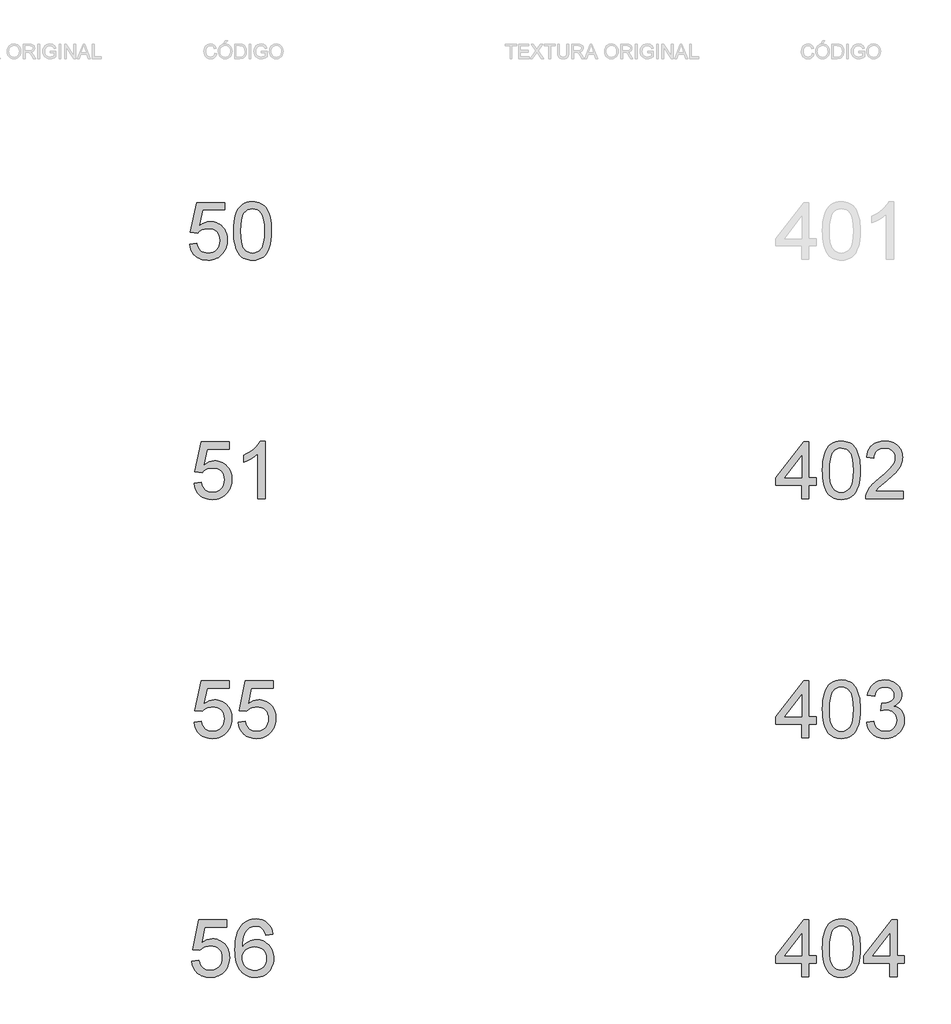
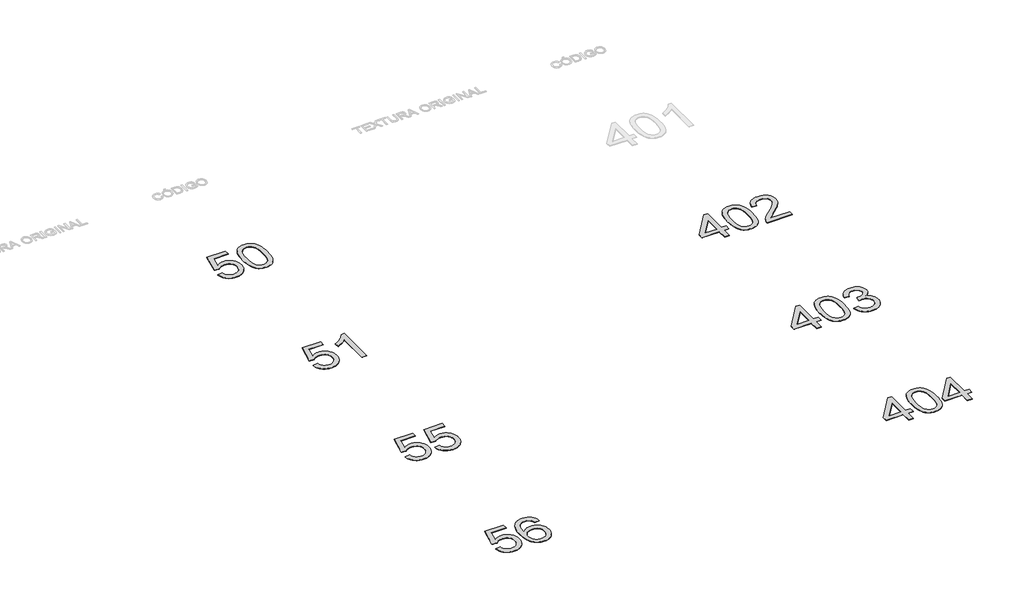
# One storey, part 5 of 19: 7 proxies.
"""IFC4 building model written with IfcOpenShell, lengths in millimetres."""

from ifc_helpers import new_model, si_unit, origin, origin_with_axes, place, context, project, spatial, polyline, outline, extrude, element, save

model = new_model("IFC4")

# Units and contexts
model_context = context("Model", 3, world=origin())
ifc_project = project(units=[si_unit("LENGTHUNIT", "METRE", prefix="MILLI")], contexts=[model_context])

# Site, building, storey
site = spatial("IfcSite", under=ifc_project)
building = spatial("IfcBuilding", under=site)
storey = spatial("IfcBuildingStorey", under=building, Name="Marelli - Linha ACTIVE - Planta Baixa", Elevation=0.0)

# Proxies
placement = place(None, origin())
element("IfcBuildingElementProxy", 1, Name="1200mm Arial", ObjectType="1200mm Arial", at=placement, inside=storey, context=model_context, shape_type="SweptSolid", body=[
    extrude(outline(polyline([(-25228.2202746, -108660.3618315), (-25077.5358094, -108641.5262733), (-25066.2786203, -108689.967135), (-25049.8710833, -108731.9884559), (-25028.3131984, -108767.590236), (-25001.6049656, -108796.7724753), (-24969.8015671, -108819.4983855), (-24932.9581853, -108835.7311786), (-24891.0748201, -108845.4708544), (-24844.1514716, -108848.717413), (-24786.7618804, -108844.2016615), (-24736.1413178, -108830.654407), (-24692.289784, -108808.0756496), (-24655.2072789, -108776.4653891), (-24625.721537, -108737.3871242), (-24604.6602928, -108692.4043532), (-24592.0235462, -108641.5170763), (-24587.8112974, -108584.7252933), (-24591.7568318, -108531.0513102), (-24603.593435, -108483.3370154), (-24623.321107, -108441.5824089), (-24650.9398478, -108405.7874908), (-24686.5416278, -108377.0743011), (-24730.2184177, -108356.5648799), (-24781.9702174, -108344.2592271), (-24841.7970269, -108340.1573429), (-24880.0843455, -108341.7944177), (-24914.8951793, -108346.7056424), (-24946.2295282, -108354.8910168), (-24974.0873923, -108366.3505409), (-25021.3602287, -108396.4432881), (-25058.7002512, -108434.3351336), (-25209.3847164, -108415.4995755), (-25077.5358094, -107793.9261564), (-24493.6335066, -107793.9261564), (-24493.6335066, -107944.6106217), (-24955.6932926, -107944.6106217), (-25020.1462181, -108276.5873341), (-24966.9688757, -108238.4747594), (-24912.5039463, -108211.2514918), (-24856.75143, -108194.9175312), (-24799.7113266, -108189.4728776), (-24762.2724358, -108191.1605363), (-24726.3280656, -108196.2235123), (-24691.878216, -108204.6618055), (-24658.9228871, -108216.4754161), (-24627.4620787, -108231.664344), (-24597.4957909, -108250.2285891), (-24569.0240237, -108272.1681516), (-24542.0467772, -108297.4830314), (-24517.4561651, -108325.4512601), (-24496.1443012, -108355.3508693), (-24478.1111857, -108387.1818589), (-24463.3568184, -108420.944229), (-24451.8811994, -108456.6379796), (-24443.6843287, -108494.2631106), (-24438.7662063, -108533.8196222), (-24437.1268322, -108575.3075142), (-24443.0313382, -108653.3720736), (-24450.4119707, -108690.3626082), (-24460.7448562, -108725.9919794), (-24474.0299948, -108760.2601873), (-24490.2673864, -108793.1672317), (-24509.4570309, -108824.7131128), (-24531.5989285, -108854.8978305), (-24561.5997052, -108888.7659667), (-24594.2124441, -108918.1183514), (-24629.4371451, -108942.9549846), (-24667.2738083, -108963.2758663), (-24707.7224337, -108979.0809965), (-24750.7830212, -108990.3703752), (-24796.4555709, -108997.1440025), (-24844.7400828, -108999.4018782), (-24922.5011395, -108993.5985397), (-24958.5604729, -108986.3443667), (-24992.7390095, -108976.1885243), (-25025.0367494, -108963.1310128), (-25055.4536926, -108947.171832), (-25083.9898391, -108928.3109819), (-25110.6451889, -108906.5484626), (-25134.9828822, -108882.3901119), (-25156.566059, -108856.3417673), (-25175.3947193, -108828.4034291), (-25191.4688633, -108798.5750971), (-25204.7884908, -108766.8567713), (-25215.3536018, -108733.2484518), (-25228.2202746, -108660.3618315)])), origin_with_axes(), (0.0, 0.0, 1.0), 10.0),
    extrude(outline(polyline([(-24305.2779251, -108387.5405438), (-24302.5096131, -108286.1798571), (-24294.204677, -108194.5864374), (-24280.363117, -108112.7602846), (-24260.9849329, -108040.7013988), (-24236.1528982, -107977.8211688), (-24205.9497864, -107923.5309833), (-24170.3755975, -107877.8308425), (-24129.4303314, -107840.7207462), (-24082.9760325, -107812.0075565), (-24030.8747449, -107791.4981353), (-23973.1264687, -107779.1924825), (-23909.7312039, -107775.0905983), (-23862.0904855, -107777.5186194), (-23816.8777883, -107784.8026829), (-23774.0931123, -107796.9427888), (-23733.7364574, -107813.938937), (-23696.782711, -107835.5060189), (-23664.2067603, -107861.3589261), (-23636.0086054, -107891.4976586), (-23612.1882462, -107925.9222163), (-23591.5500662, -107964.4946435), (-23572.8984491, -108007.0769844), (-23541.5549031, -108104.2714076), (-23529.5803442, -108161.4310726), (-23521.0270878, -108227.6958169), (-23515.8951339, -108303.0656407), (-23514.1844827, -108387.5405438), (-23516.9252035, -108488.2574371), (-23525.1473661, -108579.3910043), (-23538.8509704, -108660.9412456), (-23558.0360165, -108732.9081609), (-23582.6749131, -108795.8159821), (-23612.7400692, -108850.188941), (-23648.2314847, -108896.0270376), (-23689.1491596, -108933.3302719), (-23735.6586408, -108962.2365997), (-23787.9254753, -108982.8839766), (-23845.949663, -108995.2724028), (-23909.7312039, -108999.4018782), (-23952.4055153, -108997.6084535), (-23992.725382, -108992.2281793), (-24030.6908039, -108983.2610557), (-24066.301781, -108970.7070826), (-24099.5583134, -108954.5662601), (-24130.460401, -108934.8385881), (-24159.0080438, -108911.5240666), (-24185.2012419, -108884.6226957), (-24213.3442145, -108842.0265592), (-24237.7347908, -108793.8478134), (-24258.3729707, -108740.0864583), (-24275.2587543, -108680.742494), (-24288.3921415, -108615.8159204), (-24297.7731324, -108545.3067375), (-24303.4017269, -108469.2149453), (-24305.2779251, -108387.5405438)]), holes=[polyline([(-24154.5934599, -108387.2462382), (-24150.1788759, -108518.2398197), (-24136.9351241, -108624.2726077), (-24127.0023102, -108667.9287043), (-24114.8622044, -108705.3446024), (-24100.5148066, -108736.5203023), (-24083.9601168, -108761.4558037), (-24046.5833061, -108799.6327578), (-24005.086217, -108826.9020107), (-23959.4688496, -108843.2635624), (-23909.7312039, -108848.717413), (-23859.9935581, -108843.2451683), (-23814.3761907, -108826.8284343), (-23772.8791017, -108799.4672109), (-23735.502291, -108761.1614981), (-23718.9476012, -108736.1662158), (-23704.6002034, -108704.9583263), (-23692.4600975, -108667.5378296), (-23682.5272837, -108623.9047257), (-23669.2835318, -108518.0006964), (-23664.8689479, -108387.2462382), (-23669.136379, -108259.7199446), (-23681.9386725, -108155.5541577), (-23691.5403925, -108112.2314542), (-23703.2758282, -108074.7488774), (-23717.1449794, -108043.1064273), (-23733.1478462, -108017.3041039), (-23769.8992575, -107977.2601487), (-23811.8745932, -107948.6573236), (-23859.0738531, -107931.4956285), (-23911.4970374, -107925.7750635), (-23960.9771658, -107930.8150468), (-24005.821981, -107945.9349968), (-24046.0314831, -107971.1349135), (-24081.605672, -108006.4147968), (-24098.7121848, -108034.9624397), (-24113.5378292, -108068.954736), (-24126.0826052, -108108.3916859), (-24136.3465129, -108153.2732893), (-24150.0317231, -108259.3704567), (-24154.5934599, -108387.2462382)])]), origin_with_axes(), (0.0, 0.0, 1.0), 10.0),
])
element("IfcBuildingElementProxy", 2, Name="1200mm Arial", ObjectType="1200mm Arial", at=placement, inside=storey, context=model_context, shape_type="SweptSolid", body=[
    extrude(outline(polyline([(-25134.0424838, -113668.6139517), (-24983.3580186, -113649.7783935), (-24972.1008295, -113698.2192552), (-24955.6932926, -113740.2405761), (-24934.1354076, -113775.8423562), (-24907.4271748, -113805.0245955), (-24875.6237763, -113827.7505057), (-24838.7803945, -113843.9832988), (-24796.8970293, -113853.7229746), (-24749.9736809, -113856.9695332), (-24692.5840896, -113852.4537817), (-24641.9635271, -113838.9065272), (-24598.1119932, -113816.3277698), (-24561.0294881, -113784.7175093), (-24531.5437462, -113745.6392444), (-24510.482502, -113700.6564734), (-24497.8457555, -113649.7691965), (-24493.6335066, -113592.9774135), (-24497.579041, -113539.3034304), (-24509.4156442, -113491.5891356), (-24529.1433162, -113449.8345291), (-24556.762057, -113414.039611), (-24592.3638371, -113385.3264213), (-24636.040627, -113364.817), (-24687.7924266, -113352.5113473), (-24747.6192361, -113348.4094631), (-24785.9065547, -113350.0465379), (-24820.7173885, -113354.9577626), (-24852.0517375, -113363.143137), (-24879.9096016, -113374.6026611), (-24927.1824379, -113404.6954083), (-24964.5224604, -113442.5872538), (-25115.2069257, -113423.7516957), (-24983.3580186, -112802.1782766), (-24399.4557159, -112802.1782766), (-24399.4557159, -112952.8627418), (-24861.5155018, -112952.8627418), (-24925.9684273, -113284.8394543), (-24872.7910849, -113246.7268796), (-24818.3261556, -113219.503612), (-24762.5736392, -113203.1696514), (-24705.5335358, -113197.7249978), (-24668.094645, -113199.4126565), (-24632.1502749, -113204.4756325), (-24597.7004253, -113212.9139257), (-24564.7450963, -113224.7275363), (-24533.2842879, -113239.9164642), (-24503.3180001, -113258.4807093), (-24474.846233, -113280.4202718), (-24447.8689864, -113305.7351516), (-24423.2783743, -113333.7033803), (-24401.9665105, -113363.6029895), (-24383.9333949, -113395.4339791), (-24369.1790276, -113429.1963492), (-24357.7034087, -113464.8900998), (-24349.506538, -113502.5152308), (-24344.5884155, -113542.0717424), (-24342.9490414, -113583.5596344), (-24348.8535474, -113661.6241938), (-24356.2341799, -113698.6147284), (-24366.5670655, -113734.2440996), (-24379.852204, -113768.5123075), (-24396.0895956, -113801.4193519), (-24415.2792402, -113832.965233), (-24437.4211378, -113863.1499507), (-24467.4219145, -113897.0180869), (-24500.0346533, -113926.3704716), (-24535.2593544, -113951.2071048), (-24573.0960176, -113971.5279865), (-24613.5446429, -113987.3331167), (-24656.6052305, -113998.6224954), (-24702.2777802, -114005.3961227), (-24750.562292, -114007.6539984), (-24828.3233488, -114001.8506599), (-24864.3826821, -113994.5964869), (-24898.5612187, -113984.4406445), (-24930.8589586, -113971.383133), (-24961.2759018, -113955.4239522), (-24989.8120483, -113936.5631021), (-25016.4673982, -113914.8005828), (-25040.8050914, -113890.6422321), (-25062.3882682, -113864.5938875), (-25081.2169286, -113836.6555493), (-25097.2910725, -113806.8272173), (-25110.6107, -113775.1088915), (-25121.175811, -113741.500572), (-25134.0424838, -113668.6139517)])), origin_with_axes(), (0.0, 0.0, 1.0), 10.0),
    extrude(outline(polyline([(-23646.0333897, -113988.8184403), (-23796.717855, -113988.8184403), (-23796.717855, -113049.3949774), (-23859.6256761, -113100.2730573), (-23939.4560691, -113151.0775609), (-24023.2595876, -113195.4809177), (-24098.0867854, -113227.1555575), (-24098.0867854, -113084.7116489), (-24036.9356008, -113054.0486846), (-23979.7391476, -113020.3322998), (-23926.4974258, -112983.5624943), (-23877.2104355, -112943.7392684), (-23833.3497046, -112902.7020318), (-23796.3867612, -112862.2901946), (-23766.3216051, -112822.5037569), (-23743.1542365, -112783.3427185), (-23646.0333897, -112783.3427185), (-23646.0333897, -113988.8184403)])), origin_with_axes(), (0.0, 0.0, 1.0), 10.0),
])
element("IfcBuildingElementProxy", 3, Name="1200mm Arial", ObjectType="1200mm Arial", at=placement, inside=storey, context=model_context, shape_type="SweptSolid", body=[
    extrude(outline(polyline([(-25134.0424838, -118668.6139517), (-24983.3580186, -118649.7783935), (-24972.1008295, -118698.2192552), (-24955.6932926, -118740.2405761), (-24934.1354076, -118775.8423562), (-24907.4271748, -118805.0245955), (-24875.6237763, -118827.7505057), (-24838.7803945, -118843.9832988), (-24796.8970293, -118853.7229746), (-24749.9736809, -118856.9695332), (-24692.5840896, -118852.4537817), (-24641.9635271, -118838.9065272), (-24598.1119932, -118816.3277698), (-24561.0294881, -118784.7175093), (-24531.5437462, -118745.6392444), (-24510.482502, -118700.6564734), (-24497.8457555, -118649.7691965), (-24493.6335066, -118592.9774135), (-24497.579041, -118539.3034304), (-24509.4156442, -118491.5891356), (-24529.1433162, -118449.8345291), (-24556.762057, -118414.039611), (-24592.3638371, -118385.3264213), (-24636.040627, -118364.817), (-24687.7924266, -118352.5113473), (-24747.6192361, -118348.4094631), (-24785.9065547, -118350.0465379), (-24820.7173885, -118354.9577626), (-24852.0517375, -118363.143137), (-24879.9096016, -118374.6026611), (-24927.1824379, -118404.6954083), (-24964.5224604, -118442.5872538), (-25115.2069257, -118423.7516957), (-24983.3580186, -117802.1782766), (-24399.4557159, -117802.1782766), (-24399.4557159, -117952.8627418), (-24861.5155018, -117952.8627418), (-24925.9684273, -118284.8394543), (-24872.7910849, -118246.7268796), (-24818.3261556, -118219.503612), (-24762.5736392, -118203.1696514), (-24705.5335358, -118197.7249978), (-24668.094645, -118199.4126565), (-24632.1502749, -118204.4756325), (-24597.7004253, -118212.9139257), (-24564.7450963, -118224.7275363), (-24533.2842879, -118239.9164642), (-24503.3180001, -118258.4807093), (-24474.846233, -118280.4202718), (-24447.8689864, -118305.7351516), (-24423.2783743, -118333.7033803), (-24401.9665105, -118363.6029895), (-24383.9333949, -118395.4339791), (-24369.1790276, -118429.1963492), (-24357.7034087, -118464.8900998), (-24349.506538, -118502.5152308), (-24344.5884155, -118542.0717424), (-24342.9490414, -118583.5596344), (-24348.8535474, -118661.6241938), (-24356.2341799, -118698.6147284), (-24366.5670655, -118734.2440996), (-24379.852204, -118768.5123075), (-24396.0895956, -118801.4193519), (-24415.2792402, -118832.965233), (-24437.4211378, -118863.1499507), (-24467.4219145, -118897.0180869), (-24500.0346533, -118926.3704716), (-24535.2593544, -118951.2071048), (-24573.0960176, -118971.5279865), (-24613.5446429, -118987.3331167), (-24656.6052305, -118998.6224954), (-24702.2777802, -119005.3961227), (-24750.562292, -119007.6539984), (-24828.3233488, -119001.8506599), (-24864.3826821, -118994.5964869), (-24898.5612187, -118984.4406445), (-24930.8589586, -118971.383133), (-24961.2759018, -118955.4239522), (-24989.8120483, -118936.5631021), (-25016.4673982, -118914.8005828), (-25040.8050914, -118890.6422321), (-25062.3882682, -118864.5938875), (-25081.2169286, -118836.6555493), (-25097.2910725, -118806.8272173), (-25110.6107, -118775.1088915), (-25121.175811, -118741.500572), (-25134.0424838, -118668.6139517)])), origin_with_axes(), (0.0, 0.0, 1.0), 10.0),
    extrude(outline(polyline([(-24211.1001343, -118668.6139517), (-24060.4156691, -118649.7783935), (-24049.15848, -118698.2192552), (-24032.7509431, -118740.2405761), (-24011.1930581, -118775.8423562), (-23984.4848253, -118805.0245955), (-23952.6814268, -118827.7505057), (-23915.838045, -118843.9832988), (-23873.9546798, -118853.7229746), (-23827.0313314, -118856.9695332), (-23769.6417401, -118852.4537817), (-23719.0211776, -118838.9065272), (-23675.1696437, -118816.3277698), (-23638.0871386, -118784.7175093), (-23608.6013967, -118745.6392444), (-23587.5401525, -118700.6564734), (-23574.903406, -118649.7691965), (-23570.6911571, -118592.9774135), (-23574.6366915, -118539.3034304), (-23586.4732947, -118491.5891356), (-23606.2009667, -118449.8345291), (-23633.8197075, -118414.039611), (-23669.4214876, -118385.3264213), (-23713.0982775, -118364.817), (-23764.8500771, -118352.5113473), (-23824.6768866, -118348.4094631), (-23862.9642052, -118350.0465379), (-23897.775039, -118354.9577626), (-23929.109388, -118363.143137), (-23956.9672521, -118374.6026611), (-24004.2400884, -118404.6954083), (-24041.5801109, -118442.5872538), (-24192.2645762, -118423.7516957), (-24060.4156691, -117802.1782766), (-23476.5133664, -117802.1782766), (-23476.5133664, -117952.8627418), (-23938.5731523, -117952.8627418), (-24003.0260778, -118284.8394543), (-23949.8487354, -118246.7268796), (-23895.3838061, -118219.503612), (-23839.6312897, -118203.1696514), (-23782.5911863, -118197.7249978), (-23745.1522955, -118199.4126565), (-23709.2079254, -118204.4756325), (-23674.7580758, -118212.9139257), (-23641.8027468, -118224.7275363), (-23610.3419384, -118239.9164642), (-23580.3756506, -118258.4807093), (-23551.9038835, -118280.4202718), (-23524.9266369, -118305.7351516), (-23500.3360248, -118333.7033803), (-23479.024161, -118363.6029895), (-23460.9910454, -118395.4339791), (-23446.2366781, -118429.1963492), (-23434.7610592, -118464.8900998), (-23426.5641885, -118502.5152308), (-23421.646066, -118542.0717424), (-23420.0066919, -118583.5596344), (-23425.9111979, -118661.6241938), (-23433.2918304, -118698.6147284), (-23443.624716, -118734.2440996), (-23456.9098545, -118768.5123075), (-23473.1472461, -118801.4193519), (-23492.3368907, -118832.965233), (-23514.4787883, -118863.1499507), (-23544.479565, -118897.0180869), (-23577.0923038, -118926.3704716), (-23612.3170049, -118951.2071048), (-23650.1536681, -118971.5279865), (-23690.6022934, -118987.3331167), (-23733.662881, -118998.6224954), (-23779.3354307, -119005.3961227), (-23827.6199425, -119007.6539984), (-23905.3809993, -119001.8506599), (-23941.4403326, -118994.5964869), (-23975.6188692, -118984.4406445), (-24007.9166091, -118971.383133), (-24038.3335523, -118955.4239522), (-24066.8696989, -118936.5631021), (-24093.5250487, -118914.8005828), (-24117.8627419, -118890.6422321), (-24139.4459187, -118864.5938875), (-24158.2745791, -118836.6555493), (-24174.348723, -118806.8272173), (-24187.6683505, -118775.1088915), (-24198.2334615, -118741.500572), (-24211.1001343, -118668.6139517)])), origin_with_axes(), (0.0, 0.0, 1.0), 10.0),
])
element("IfcBuildingElementProxy", 4, Name="1200mm Arial", ObjectType="1200mm Arial", at=placement, inside=storey, context=model_context, shape_type="SweptSolid", body=[
    extrude(outline(polyline([(-25181.1313792, -123668.6139517), (-25030.446914, -123649.7783935), (-25019.1897249, -123698.2192552), (-25002.7821879, -123740.2405761), (-24981.224303, -123775.8423562), (-24954.5160702, -123805.0245955), (-24922.7126717, -123827.7505057), (-24885.8692899, -123843.9832988), (-24843.9859247, -123853.7229746), (-24797.0625762, -123856.9695332), (-24739.672985, -123852.4537817), (-24689.0524225, -123838.9065272), (-24645.2008886, -123816.3277698), (-24608.1183835, -123784.7175093), (-24578.6326416, -123745.6392444), (-24557.5713974, -123700.6564734), (-24544.9346508, -123649.7691965), (-24540.722402, -123592.9774135), (-24544.6679364, -123539.3034304), (-24556.5045396, -123491.5891356), (-24576.2322116, -123449.8345291), (-24603.8509524, -123414.039611), (-24639.4527325, -123385.3264213), (-24683.1295223, -123364.817), (-24734.881322, -123352.5113473), (-24794.7081315, -123348.4094631), (-24832.9954501, -123350.0465379), (-24867.8062839, -123354.9577626), (-24899.1406329, -123363.143137), (-24926.9984969, -123374.6026611), (-24974.2713333, -123404.6954083), (-25011.6113558, -123442.5872538), (-25162.2958211, -123423.7516957), (-25030.446914, -122802.1782766), (-24446.5446112, -122802.1782766), (-24446.5446112, -122952.8627418), (-24908.6043972, -122952.8627418), (-24973.0573227, -123284.8394543), (-24919.8799803, -123246.7268796), (-24865.4150509, -123219.503612), (-24809.6625346, -123203.1696514), (-24752.6224312, -123197.7249978), (-24715.1835404, -123199.4126565), (-24679.2391702, -123204.4756325), (-24644.7893206, -123212.9139257), (-24611.8339917, -123224.7275363), (-24580.3731833, -123239.9164642), (-24550.4068955, -123258.4807093), (-24521.9351284, -123280.4202718), (-24494.9578818, -123305.7351516), (-24470.3672697, -123333.7033803), (-24449.0554059, -123363.6029895), (-24431.0222903, -123395.4339791), (-24416.267923, -123429.1963492), (-24404.792304, -123464.8900998), (-24396.5954333, -123502.5152308), (-24391.6773109, -123542.0717424), (-24390.0379368, -123583.5596344), (-24395.9424428, -123661.6241938), (-24403.3230753, -123698.6147284), (-24413.6559609, -123734.2440996), (-24426.9410994, -123768.5123075), (-24443.178491, -123801.4193519), (-24462.3681356, -123832.965233), (-24484.5100331, -123863.1499507), (-24514.5108098, -123897.0180869), (-24547.1235487, -123926.3704716), (-24582.3482498, -123951.2071048), (-24620.184913, -123971.5279865), (-24660.6335383, -123987.3331167), (-24703.6941259, -123998.6224954), (-24749.3666756, -124005.3961227), (-24797.6511874, -124007.6539984), (-24875.4122442, -124001.8506599), (-24911.4715775, -123994.5964869), (-24945.6501141, -123984.4406445), (-24977.947854, -123971.383133), (-25008.3647972, -123955.4239522), (-25036.9009437, -123936.5631021), (-25063.5562935, -123914.8005828), (-25087.8939868, -123890.6422321), (-25109.4771636, -123864.5938875), (-25128.305824, -123836.6555493), (-25144.3799679, -123806.8272173), (-25157.6995954, -123775.1088915), (-25168.2647064, -123741.500572), (-25181.1313792, -123668.6139517)])), origin_with_axes(), (0.0, 0.0, 1.0), 10.0),
    extrude(outline(polyline([(-23485.9311454, -123103.5472071), (-23636.6156107, -123122.3827652), (-23647.6888587, -123082.0812927), (-23660.8958223, -123047.7027202), (-23676.2365015, -123019.2470479), (-23693.7108963, -122996.7142757), (-23726.102906, -122969.2886729), (-23762.063371, -122949.6989567), (-23801.5922914, -122937.9451269), (-23844.6896671, -122934.0271837), (-23880.2270679, -122936.3080521), (-23914.734399, -122943.1506572), (-23948.2116606, -122954.554999), (-23980.6588525, -122970.5210776), (-24010.2641561, -122996.6315022), (-24037.2758916, -123028.1681863), (-24061.694059, -123065.1311297), (-24083.5186584, -123107.5203326), (-24101.5908614, -123158.1316981), (-24114.7518398, -123219.7611293), (-24123.0015935, -123292.4086263), (-24126.3401226, -123376.0741891), (-24097.6177359, -123338.2099347), (-24065.8971108, -123305.5512106), (-24031.1782475, -123278.0980167), (-23993.461146, -123255.8503531), (-23953.7574816, -123238.6610669), (-23913.07893, -123226.3830053), (-23871.4254911, -123219.0161683), (-23828.7971649, -123216.560556), (-23791.8986008, -123218.2390176), (-23756.3979883, -123223.2744024), (-23722.2953273, -123231.6667104), (-23689.590618, -123243.4159416), (-23658.2838602, -123258.5220961), (-23628.375054, -123276.9851737), (-23599.8641993, -123298.8051745), (-23572.7512963, -123323.9820986), (-23547.9882395, -123351.81697), (-23526.5269236, -123381.6108131), (-23508.3673486, -123413.3636278), (-23493.5095145, -123447.0754142), (-23481.9534214, -123482.7461721), (-23473.6990691, -123520.3759017), (-23468.7464577, -123559.9646029), (-23467.0955873, -123601.5122757), (-23470.2041901, -123656.4462547), (-23479.5299987, -123709.4120649), (-23495.073013, -123760.4097065), (-23516.833233, -123809.4391794), (-23544.0381066, -123854.6702707), (-23575.9150814, -123894.2727675), (-23612.4641577, -123928.2466698), (-23653.6853352, -123956.5919775), (-23698.6956973, -123978.9316116), (-23746.6123272, -123994.8884932), (-23797.4352248, -124004.4626221), (-23851.1643902, -124007.6539984), (-23897.1657345, -124005.5386769), (-23940.9919764, -123999.1927125), (-23982.6431161, -123988.6161052), (-24022.1191534, -123973.8088549), (-24059.4200884, -123954.7709616), (-24094.5459212, -123931.5024254), (-24127.4966517, -123904.0032463), (-24158.2722798, -123872.2734242), (-24186.104852, -123835.6875598), (-24210.2264146, -123793.6202536), (-24230.6369675, -123746.0715057), (-24247.3365108, -123693.0413161), (-24260.3250445, -123634.5296848), (-24269.6025686, -123570.5366118), (-24275.169083, -123501.062097), (-24277.0245879, -123426.1061404), (-24274.9644487, -123342.1784618), (-24268.7840312, -123264.1828803), (-24258.4833353, -123192.1193959), (-24244.0623611, -123125.9880088), (-24225.5211085, -123065.7887188), (-24202.8595776, -123011.521526), (-24176.0777684, -122963.1864303), (-24145.1756808, -122920.7834319), (-24115.1611085, -122888.5707647), (-24082.6541357, -122860.6531198), (-24047.6547624, -122837.0304971), (-24010.1629886, -122817.7028968), (-23970.1788142, -122802.6703188), (-23927.7022393, -122791.9327631), (-23882.733264, -122785.4902296), (-23835.271888, -122783.3427185), (-23765.8709497, -122788.6586133), (-23703.055099, -122804.6062978), (-23646.824336, -122831.1857719), (-23597.1786608, -122868.3970358), (-23555.4608425, -122914.9892904), (-23523.0136505, -122969.7117372), (-23499.8370848, -123032.5643761), (-23485.9311454, -123103.5472071)]), holes=[polyline([(-24126.3401226, -123599.157831), (-24124.1604218, -123632.9202011), (-24117.6213193, -123665.9284131), (-24106.7228152, -123698.182467), (-24091.4649095, -123729.6823629), (-24072.5925631, -123758.9473756), (-24050.8507372, -123784.4967801), (-24026.2394317, -123806.3305766), (-23998.7586467, -123824.4487648), (-23968.5831261, -123838.676601), (-23935.8876137, -123848.8393411), (-23900.6721097, -123854.9369852), (-23862.9366141, -123856.9695332), (-23810.559415, -123852.7572844), (-23763.4981108, -123840.1205378), (-23721.7527014, -123819.0592936), (-23685.3231868, -123789.5735517), (-23655.7730656, -123752.8589286), (-23634.6658361, -123710.1110407), (-23622.0014984, -123661.3298882), (-23617.7800525, -123606.5154709), (-23621.9463161, -123553.8439662), (-23634.4451069, -123507.0769676), (-23655.2764249, -123466.214475), (-23684.44027, -123431.2564884), (-23720.9801492, -123403.2514715), (-23763.9395692, -123383.247888), (-23813.31853, -123371.2457379), (-23869.1170316, -123367.2450212), (-23920.7952549, -123371.2457379), (-23968.4083821, -123383.247888), (-24011.9564133, -123403.2514715), (-24051.4393484, -123431.2564884), (-24084.2084371, -123465.7546225), (-24107.6149291, -123505.2375576), (-24121.6588242, -123549.7052938), (-24126.3401226, -123599.157831)])]), origin_with_axes(), (0.0, 0.0, 1.0), 10.0),
])
element("IfcBuildingElementProxy", 5, Name="1200mm Arial", ObjectType="1200mm Arial", at=placement, inside=storey, context=model_context, shape_type="SweptSolid", body=[
    extrude(outline(polyline([(-12417.4335651, -113988.8184403), (-12417.4335651, -113706.285068), (-12963.6647515, -113706.285068), (-12963.6647515, -113555.6006027), (-12379.7624488, -112802.1782766), (-12266.7490998, -112802.1782766), (-12266.7490998, -113555.6006027), (-12116.0646346, -113555.6006027), (-12116.0646346, -113706.285068), (-12266.7490998, -113706.285068), (-12266.7490998, -113988.8184403), (-12417.4335651, -113988.8184403)]), holes=[polyline([(-12417.4335651, -113555.6006027), (-12417.4335651, -113090.0091497), (-12778.2522259, -113555.6006027), (-12417.4335651, -113555.6006027)])]), origin_with_axes(), (0.0, 0.0, 1.0), 10.0),
    extrude(outline(polyline([(-11984.2157275, -113395.792664), (-11981.4474155, -113294.4319773), (-11973.1424795, -113202.8385576), (-11959.3009194, -113121.0124048), (-11939.9227353, -113048.953519), (-11915.0907006, -112986.073289), (-11884.8875888, -112931.7831035), (-11849.3133999, -112886.0829627), (-11808.3681338, -112848.9728664), (-11761.9138349, -112820.2596767), (-11709.8125473, -112799.7502555), (-11652.0642711, -112787.4446027), (-11588.6690063, -112783.3427185), (-11541.028288, -112785.7707396), (-11495.8155907, -112793.0548031), (-11453.0309147, -112805.194909), (-11412.6742598, -112822.1910572), (-11375.7205134, -112843.7581391), (-11343.1445627, -112869.6110463), (-11314.9464078, -112899.7497788), (-11291.1260486, -112934.1743365), (-11270.4878687, -112972.7467637), (-11251.8362515, -113015.3291046), (-11220.4927056, -113112.5235278), (-11208.5181466, -113169.6831928), (-11199.9648902, -113235.9479371), (-11194.8329364, -113311.3177609), (-11193.1222851, -113395.792664), (-11195.863006, -113496.5095573), (-11204.0851686, -113587.6431245), (-11217.7887729, -113669.1933658), (-11236.9738189, -113741.1602811), (-11261.6127156, -113804.0681023), (-11291.6778716, -113858.4410612), (-11327.1692871, -113904.2791578), (-11368.086962, -113941.5823921), (-11414.5964433, -113970.4887199), (-11466.8632777, -113991.1360968), (-11524.8874654, -114003.524523), (-11588.6690063, -114007.6539984), (-11631.3433178, -114005.8605737), (-11671.6631844, -114000.4802995), (-11709.6286063, -113991.5131759), (-11745.2395835, -113978.9592028), (-11778.4961158, -113962.8183803), (-11809.3982034, -113943.0907083), (-11837.9458463, -113919.7761868), (-11864.1390443, -113892.8748159), (-11892.2820169, -113850.2786794), (-11916.6725932, -113802.0999336), (-11937.3107732, -113748.3385785), (-11954.1965567, -113688.9946142), (-11967.329944, -113624.0680406), (-11976.7109348, -113553.5588577), (-11982.3395294, -113477.4670655), (-11984.2157275, -113395.792664)]), holes=[polyline([(-11833.5312623, -113395.4983584), (-11829.1166784, -113526.4919399), (-11815.8729265, -113632.5247279), (-11805.9401127, -113676.1808245), (-11793.8000068, -113713.5967226), (-11779.452609, -113744.7724225), (-11762.8979192, -113769.7079239), (-11725.5211085, -113807.884878), (-11684.0240195, -113835.1541309), (-11638.4066521, -113851.5156826), (-11588.6690063, -113856.9695332), (-11538.9313606, -113851.4972885), (-11493.3139932, -113835.0805545), (-11451.8169041, -113807.7193311), (-11414.4400934, -113769.4136183), (-11397.8854036, -113744.418336), (-11383.5380058, -113713.2104465), (-11371.3979, -113675.7899498), (-11361.4650861, -113632.1568459), (-11348.2213343, -113526.2528166), (-11343.8067503, -113395.4983584), (-11348.0741815, -113267.9720648), (-11360.8764749, -113163.8062779), (-11370.478195, -113120.4835744), (-11382.2136306, -113083.0009976), (-11396.0827819, -113051.3585475), (-11412.0856486, -113025.5562241), (-11448.83706, -112985.5122689), (-11490.8123956, -112956.9094438), (-11538.0116556, -112939.7477487), (-11590.4348399, -112934.0271837), (-11639.9149683, -112939.067167), (-11684.7597835, -112954.187117), (-11724.9692855, -112979.3870337), (-11760.5434745, -113014.666917), (-11777.6499872, -113043.2145599), (-11792.4756317, -113077.2068562), (-11805.0204077, -113116.6438061), (-11815.2843154, -113161.5254095), (-11828.9695256, -113267.6225769), (-11833.5312623, -113395.4983584)])]), origin_with_axes(), (0.0, 0.0, 1.0), 10.0),
    extrude(outline(polyline([(-10289.0154938, -113838.133975), (-10289.0154938, -113988.8184403), (-11080.1089362, -113988.8184403), (-11076.7979982, -113935.7698566), (-11063.9221284, -113884.9285648), (-11047.4961973, -113844.029284), (-11026.7660469, -113803.7370085), (-11001.7316771, -113764.0517383), (-10972.393088, -113724.9734733), (-10936.984446, -113684.9755034), (-10893.7399174, -113642.5311182), (-10783.7432009, -113550.303102), (-10694.3110879, -113473.3605827), (-10621.139359, -113405.8726307), (-10564.2280144, -113347.839246), (-10523.5770539, -113299.2604285), (-10495.1213816, -113255.7032003), (-10474.7959013, -113212.7345832), (-10462.6006132, -113170.3545774), (-10458.5355171, -113128.5631827), (-10462.3706869, -113089.2457945), (-10473.8761963, -113053.1105855), (-10493.0520453, -113020.1575558), (-10519.8982339, -112990.3867054), (-10552.9248401, -112965.7294146), (-10590.6419416, -112948.1170641), (-10633.0495386, -112937.5496538), (-10680.147631, -112934.0271837), (-10729.7657151, -112937.4668804), (-10774.1414808, -112947.7859703), (-10813.274928, -112964.9844536), (-10847.1660568, -112989.0623302), (-10874.5824625, -113019.2102597), (-10894.2917404, -113054.6189017), (-10906.2938905, -113095.2882563), (-10910.5889128, -113141.2183234), (-11061.273378, -113122.3827652), (-11048.3147348, -113044.5941173), (-11037.8553898, -113009.3832119), (-11024.7426959, -112976.6279187), (-11008.9766532, -112946.3282379), (-10990.5572615, -112918.4841694), (-10969.484521, -112893.0957132), (-10945.7584316, -112870.1628693), (-10919.6365106, -112849.8143965), (-10891.3762756, -112832.1790533), (-10860.9777265, -112817.2568399), (-10828.4408633, -112805.0477562), (-10756.9521946, -112788.7689779), (-10676.9102695, -112783.3427185), (-10596.1509745, -112789.3759832), (-10559.1029583, -112796.9175641), (-10524.2760297, -112807.4757774), (-10491.6701886, -112821.050623), (-10461.2854351, -112837.642101), (-10433.1217691, -112857.2502113), (-10407.1791906, -112879.874954), (-10383.8991581, -112904.7345798), (-10363.7231299, -112931.0473395), (-10346.6511061, -112958.8132331), (-10332.6830866, -112988.0322606), (-10321.8190714, -113018.7044219), (-10314.0590606, -113050.8297172), (-10309.4030541, -113084.4081463), (-10307.8510519, -113119.4397093), (-10309.524915, -113155.6301005), (-10314.5465042, -113191.5077921), (-10322.9158196, -113227.072784), (-10334.6328612, -113262.3250762), (-10350.2402548, -113297.880871), (-10370.2806265, -113334.3563708), (-10423.660304, -113410.0664855), (-10460.4944888, -113452.0510182), (-10508.7514095, -113500.4550917), (-10639.5334588, -113616.5218611), (-10812.8794549, -113761.4673672), (-10850.4769948, -113799.6903065), (-10880.8640476, -113838.133975), (-10289.0154938, -113838.133975)])), origin_with_axes(), (0.0, 0.0, 1.0), 10.0),
])
element("IfcBuildingElementProxy", 6, Name="1200mm Arial", ObjectType="1200mm Arial", at=placement, inside=storey, context=model_context, shape_type="SweptSolid", body=[
    extrude(outline(polyline([(-12417.4335651, -118988.8184403), (-12417.4335651, -118706.285068), (-12963.6647515, -118706.285068), (-12963.6647515, -118555.6006027), (-12379.7624488, -117802.1782766), (-12266.7490998, -117802.1782766), (-12266.7490998, -118555.6006027), (-12116.0646346, -118555.6006027), (-12116.0646346, -118706.285068), (-12266.7490998, -118706.285068), (-12266.7490998, -118988.8184403), (-12417.4335651, -118988.8184403)]), holes=[polyline([(-12417.4335651, -118555.6006027), (-12417.4335651, -118090.0091497), (-12778.2522259, -118555.6006027), (-12417.4335651, -118555.6006027)])]), origin_with_axes(), (0.0, 0.0, 1.0), 10.0),
    extrude(outline(polyline([(-11984.2157275, -118395.792664), (-11981.4474155, -118294.4319773), (-11973.1424795, -118202.8385576), (-11959.3009194, -118121.0124048), (-11939.9227353, -118048.953519), (-11915.0907006, -117986.073289), (-11884.8875888, -117931.7831035), (-11849.3133999, -117886.0829627), (-11808.3681338, -117848.9728664), (-11761.9138349, -117820.2596767), (-11709.8125473, -117799.7502555), (-11652.0642711, -117787.4446027), (-11588.6690063, -117783.3427185), (-11541.028288, -117785.7707396), (-11495.8155907, -117793.0548031), (-11453.0309147, -117805.194909), (-11412.6742598, -117822.1910572), (-11375.7205134, -117843.7581391), (-11343.1445627, -117869.6110463), (-11314.9464078, -117899.7497788), (-11291.1260486, -117934.1743365), (-11270.4878687, -117972.7467637), (-11251.8362515, -118015.3291046), (-11220.4927056, -118112.5235278), (-11208.5181466, -118169.6831928), (-11199.9648902, -118235.9479371), (-11194.8329364, -118311.3177609), (-11193.1222851, -118395.792664), (-11195.863006, -118496.5095573), (-11204.0851686, -118587.6431245), (-11217.7887729, -118669.1933658), (-11236.9738189, -118741.1602811), (-11261.6127156, -118804.0681023), (-11291.6778716, -118858.4410612), (-11327.1692871, -118904.2791578), (-11368.086962, -118941.5823921), (-11414.5964433, -118970.4887199), (-11466.8632777, -118991.1360968), (-11524.8874654, -119003.524523), (-11588.6690063, -119007.6539984), (-11631.3433178, -119005.8605737), (-11671.6631844, -119000.4802995), (-11709.6286063, -118991.5131759), (-11745.2395835, -118978.9592028), (-11778.4961158, -118962.8183803), (-11809.3982034, -118943.0907083), (-11837.9458463, -118919.7761868), (-11864.1390443, -118892.8748159), (-11892.2820169, -118850.2786794), (-11916.6725932, -118802.0999336), (-11937.3107732, -118748.3385785), (-11954.1965567, -118688.9946142), (-11967.329944, -118624.0680406), (-11976.7109348, -118553.5588577), (-11982.3395294, -118477.4670655), (-11984.2157275, -118395.792664)]), holes=[polyline([(-11833.5312623, -118395.4983584), (-11829.1166784, -118526.4919399), (-11815.8729265, -118632.5247279), (-11805.9401127, -118676.1808245), (-11793.8000068, -118713.5967226), (-11779.452609, -118744.7724225), (-11762.8979192, -118769.7079239), (-11725.5211085, -118807.884878), (-11684.0240195, -118835.1541309), (-11638.4066521, -118851.5156826), (-11588.6690063, -118856.9695332), (-11538.9313606, -118851.4972885), (-11493.3139932, -118835.0805545), (-11451.8169041, -118807.7193311), (-11414.4400934, -118769.4136183), (-11397.8854036, -118744.418336), (-11383.5380058, -118713.2104465), (-11371.3979, -118675.7899498), (-11361.4650861, -118632.1568459), (-11348.2213343, -118526.2528166), (-11343.8067503, -118395.4983584), (-11348.0741815, -118267.9720648), (-11360.8764749, -118163.8062779), (-11370.478195, -118120.4835744), (-11382.2136306, -118083.0009976), (-11396.0827819, -118051.3585475), (-11412.0856486, -118025.5562241), (-11448.83706, -117985.5122689), (-11490.8123956, -117956.9094438), (-11538.0116556, -117939.7477487), (-11590.4348399, -117934.0271837), (-11639.9149683, -117939.067167), (-11684.7597835, -117954.187117), (-11724.9692855, -117979.3870337), (-11760.5434745, -118014.666917), (-11777.6499872, -118043.2145599), (-11792.4756317, -118077.2068562), (-11805.0204077, -118116.6438061), (-11815.2843154, -118161.5254095), (-11828.9695256, -118267.6225769), (-11833.5312623, -118395.4983584)])]), origin_with_axes(), (0.0, 0.0, 1.0), 10.0),
    extrude(outline(polyline([(-11061.273378, -118668.6139517), (-10910.5889128, -118649.7783935), (-10895.680495, -118700.9691731), (-10876.8541339, -118744.4712191), (-10854.1098295, -118780.2845313), (-10827.4475819, -118808.4091098), (-10796.2603858, -118829.6542951), (-10759.9412358, -118844.8294274), (-10718.490132, -118853.9345067), (-10671.9070743, -118856.9695332), (-10617.3133863, -118852.7940726), (-10568.6058101, -118840.2676906), (-10525.7843459, -118819.3903874), (-10488.8489935, -118790.1621629), (-10459.1057342, -118754.7719149), (-10437.860549, -118715.4085415), (-10425.1134379, -118672.0720424), (-10420.8644008, -118624.7624178), (-10425.0766497, -118579.7060705), (-10437.7133962, -118538.7148192), (-10458.7746404, -118501.7886639), (-10488.2603824, -118468.9276047), (-10524.2392415, -118441.9526574), (-10564.7798374, -118422.6848379), (-10609.88217, -118411.1241462), (-10659.5462393, -118407.2705823), (-10707.1501695, -118411.3908606), (-10765.2019483, -118423.7516957), (-10748.4265293, -118273.0672305), (-10724.2934705, -118274.833064), (-10677.9587332, -118272.1291314), (-10634.0152288, -118264.0173334), (-10592.4629575, -118250.49767), (-10553.3019191, -118231.5701414), (-10520.0821749, -118207.0324123), (-10496.3537862, -118176.6821477), (-10482.116753, -118140.5193476), (-10477.3710753, -118098.5440119), (-10480.810772, -118064.4689421), (-10491.1298619, -118033.465687), (-10508.3283452, -118005.5342465), (-10532.4062218, -117980.6746207), (-10561.9103578, -117960.266367), (-10595.3876193, -117945.6890429), (-10632.8380065, -117936.9426485), (-10674.2615191, -117934.0271837), (-10715.5746672, -117936.9702397), (-10753.2825717, -117945.7994075), (-10787.3852326, -117960.5146873), (-10817.88265, -117981.1160791), (-10844.0206658, -118007.6035827), (-10865.0451218, -118039.9771983), (-10880.9560181, -118078.2369258), (-10891.7533547, -118122.3827652), (-11042.4378199, -118103.5472071), (-11024.577149, -118031.6078829), (-10998.0712513, -117968.2402092), (-10962.9201266, -117913.4441861), (-10919.1237751, -117867.2198134), (-10868.0617542, -117830.5235844), (-10811.1136213, -117804.3119922), (-10748.2793765, -117788.5850369), (-10679.5590198, -117783.3427185), (-10631.2285227, -117785.9270895), (-10584.8294061, -117793.6802025), (-10540.3616699, -117806.6020576), (-10497.8253142, -117824.6926547), (-10458.701064, -117847.2622151), (-10424.4696444, -117873.6209601), (-10395.1310553, -117903.7688896), (-10370.6852967, -117937.7060036), (-10351.4358713, -117974.0803359), (-10337.6862817, -118011.5399201), (-10329.436528, -118050.0847561), (-10326.6866101, -118089.7148441), (-10329.2985722, -118126.9812902), (-10337.1344587, -118162.5554791), (-10350.1942696, -118196.4374109), (-10368.4780047, -118228.6270854), (-10391.8752996, -118258.3703447), (-10420.2757896, -118284.9130307), (-10453.6794748, -118308.2551433), (-10492.0863551, -118328.3966825), (-10441.8704628, -118344.1052437), (-10397.7614115, -118366.5092572), (-10359.7592014, -118395.608723), (-10327.8638325, -118431.4036412), (-10302.6271276, -118473.0110948), (-10284.6009098, -118519.5481672), (-10273.7851792, -118571.0148583), (-10270.1799356, -118627.4111682), (-10271.9825574, -118666.3882656), (-10277.3904227, -118703.8570468), (-10286.4035316, -118739.8175118), (-10299.021884, -118774.2696607), (-10315.24548, -118807.2134933), (-10335.0743196, -118838.6490098), (-10358.5084027, -118868.5762101), (-10385.5477293, -118896.9950943), (-10415.3415724, -118922.9307749), (-10447.0392048, -118945.4083648), (-10480.6406265, -118964.427864), (-10516.1458376, -118979.9892724), (-10553.554838, -118992.09259), (-10592.8676277, -119000.7378169), (-10634.0842067, -119005.924953), (-10677.2045751, -119007.6539984), (-10753.4297245, -119001.7494924), (-10789.0039134, -118994.3688599), (-10822.8858452, -118984.0359743), (-10855.0755197, -118970.7508358), (-10885.5729371, -118954.5134442), (-10914.3780974, -118935.3237996), (-10941.4910004, -118913.1819021), (-10966.3460277, -118888.6947568), (-10988.3775607, -118862.469369), (-11007.5855994, -118834.5057389), (-11023.9701437, -118804.8038663), (-11037.5311938, -118773.3637513), (-11048.2687495, -118740.1853938), (-11061.273378, -118668.6139517)])), origin_with_axes(), (0.0, 0.0, 1.0), 10.0),
])
element("IfcBuildingElementProxy", 7, Name="1200mm Arial", ObjectType="1200mm Arial", at=placement, inside=storey, context=model_context, shape_type="SweptSolid", body=[
    extrude(outline(polyline([(-12417.4335651, -123988.8184403), (-12417.4335651, -123706.285068), (-12963.6647515, -123706.285068), (-12963.6647515, -123555.6006027), (-12379.7624488, -122802.1782766), (-12266.7490998, -122802.1782766), (-12266.7490998, -123555.6006027), (-12116.0646346, -123555.6006027), (-12116.0646346, -123706.285068), (-12266.7490998, -123706.285068), (-12266.7490998, -123988.8184403), (-12417.4335651, -123988.8184403)]), holes=[polyline([(-12417.4335651, -123555.6006027), (-12417.4335651, -123090.0091497), (-12778.2522259, -123555.6006027), (-12417.4335651, -123555.6006027)])]), origin_with_axes(), (0.0, 0.0, 1.0), 10.0),
    extrude(outline(polyline([(-11984.2157275, -123395.792664), (-11981.4474155, -123294.4319773), (-11973.1424795, -123202.8385576), (-11959.3009194, -123121.0124048), (-11939.9227353, -123048.953519), (-11915.0907006, -122986.073289), (-11884.8875888, -122931.7831035), (-11849.3133999, -122886.0829627), (-11808.3681338, -122848.9728664), (-11761.9138349, -122820.2596767), (-11709.8125473, -122799.7502555), (-11652.0642711, -122787.4446027), (-11588.6690063, -122783.3427185), (-11541.028288, -122785.7707396), (-11495.8155907, -122793.0548031), (-11453.0309147, -122805.194909), (-11412.6742598, -122822.1910572), (-11375.7205134, -122843.7581391), (-11343.1445627, -122869.6110463), (-11314.9464078, -122899.7497788), (-11291.1260486, -122934.1743365), (-11270.4878687, -122972.7467637), (-11251.8362515, -123015.3291046), (-11220.4927056, -123112.5235278), (-11208.5181466, -123169.6831928), (-11199.9648902, -123235.9479371), (-11194.8329364, -123311.3177609), (-11193.1222851, -123395.792664), (-11195.863006, -123496.5095573), (-11204.0851686, -123587.6431245), (-11217.7887729, -123669.1933658), (-11236.9738189, -123741.1602811), (-11261.6127156, -123804.0681023), (-11291.6778716, -123858.4410612), (-11327.1692871, -123904.2791578), (-11368.086962, -123941.5823921), (-11414.5964433, -123970.4887199), (-11466.8632777, -123991.1360968), (-11524.8874654, -124003.524523), (-11588.6690063, -124007.6539984), (-11631.3433178, -124005.8605737), (-11671.6631844, -124000.4802995), (-11709.6286063, -123991.5131759), (-11745.2395835, -123978.9592028), (-11778.4961158, -123962.8183803), (-11809.3982034, -123943.0907083), (-11837.9458463, -123919.7761868), (-11864.1390443, -123892.8748159), (-11892.2820169, -123850.2786794), (-11916.6725932, -123802.0999336), (-11937.3107732, -123748.3385785), (-11954.1965567, -123688.9946142), (-11967.329944, -123624.0680406), (-11976.7109348, -123553.5588577), (-11982.3395294, -123477.4670655), (-11984.2157275, -123395.792664)]), holes=[polyline([(-11833.5312623, -123395.4983584), (-11829.1166784, -123526.4919399), (-11815.8729265, -123632.5247279), (-11805.9401127, -123676.1808245), (-11793.8000068, -123713.5967226), (-11779.452609, -123744.7724225), (-11762.8979192, -123769.7079239), (-11725.5211085, -123807.884878), (-11684.0240195, -123835.1541309), (-11638.4066521, -123851.5156826), (-11588.6690063, -123856.9695332), (-11538.9313606, -123851.4972885), (-11493.3139932, -123835.0805545), (-11451.8169041, -123807.7193311), (-11414.4400934, -123769.4136183), (-11397.8854036, -123744.418336), (-11383.5380058, -123713.2104465), (-11371.3979, -123675.7899498), (-11361.4650861, -123632.1568459), (-11348.2213343, -123526.2528166), (-11343.8067503, -123395.4983584), (-11348.0741815, -123267.9720648), (-11360.8764749, -123163.8062779), (-11370.478195, -123120.4835744), (-11382.2136306, -123083.0009976), (-11396.0827819, -123051.3585475), (-11412.0856486, -123025.5562241), (-11448.83706, -122985.5122689), (-11490.8123956, -122956.9094438), (-11538.0116556, -122939.7477487), (-11590.4348399, -122934.0271837), (-11639.9149683, -122939.067167), (-11684.7597835, -122954.187117), (-11724.9692855, -122979.3870337), (-11760.5434745, -123014.666917), (-11777.6499872, -123043.2145599), (-11792.4756317, -123077.2068562), (-11805.0204077, -123116.6438061), (-11815.2843154, -123161.5254095), (-11828.9695256, -123267.6225769), (-11833.5312623, -123395.4983584)])]), origin_with_axes(), (0.0, 0.0, 1.0), 10.0),
    extrude(outline(polyline([(-10571.5488661, -123988.8184403), (-10571.5488661, -123706.285068), (-11117.7800525, -123706.285068), (-11117.7800525, -123555.6006027), (-10533.8777498, -122802.1782766), (-10420.8644008, -122802.1782766), (-10420.8644008, -123555.6006027), (-10270.1799356, -123555.6006027), (-10270.1799356, -123706.285068), (-10420.8644008, -123706.285068), (-10420.8644008, -123988.8184403), (-10571.5488661, -123988.8184403)]), holes=[polyline([(-10571.5488661, -123555.6006027), (-10571.5488661, -123090.0091497), (-10932.3675269, -123555.6006027), (-10571.5488661, -123555.6006027)])]), origin_with_axes(), (0.0, 0.0, 1.0), 10.0),
])

save(model, "model.ifc")
